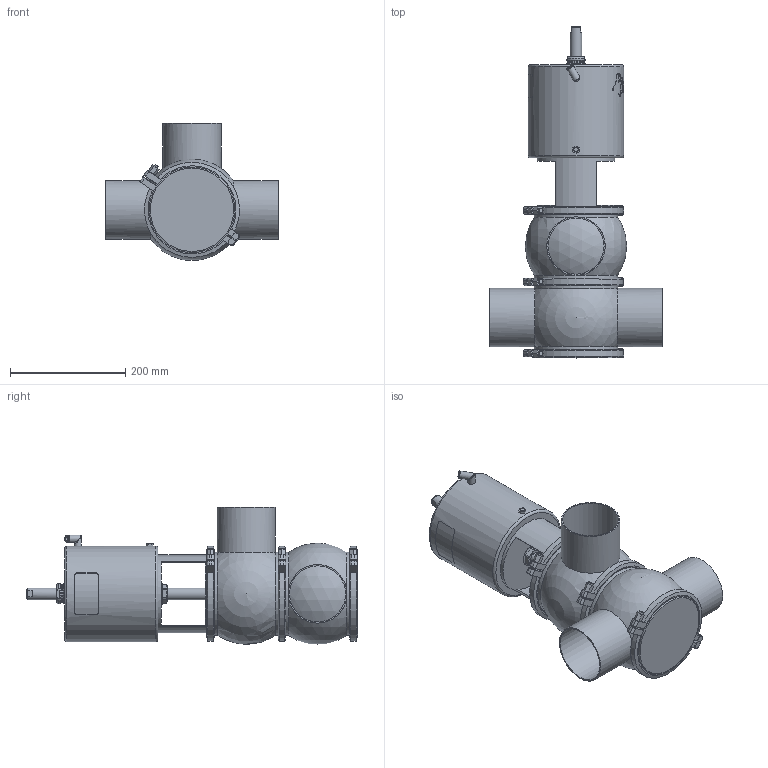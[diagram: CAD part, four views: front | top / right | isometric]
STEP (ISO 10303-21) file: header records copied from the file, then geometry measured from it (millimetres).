
FILE_DESCRIPTION (( 'STEP AP214' ), '1' );
FILE_NAME ('INNOVA M B W OD 4 T4 AS NC_10.241.16.0004.STEP', '2024-08-07T13:08:55', ( '' ), ( '' ), 'SwSTEP 2.0', 'SolidWorks 2023', '' );
FILE_SCHEMA (( 'AUTOMOTIVE_DESIGN' ));
Length unit declared in the file: millimetre
Products named in the file (7): 10.241.15.0001_DIN 100; 10.240.15.0006_OD 4"; 10.240.15.0001_DN 100; 10.240.15.0007_OD 4"; INNOVA M B W OD 4 T4 AS NC_10.241.16.0004; 10.240.15.0014_T4 AS P180; 10.240.15.0010_DN 100
Assembly tree (8 placements, depth 2):
  INNOVA M B W OD 4 T4 AS NC_10.241.16.0004
    10.240.15.0006_OD 4"
    10.240.15.0007_OD 4"
    10.240.15.0010_DN 100
    10.240.15.0014_T4 AS P180
    10.240.15.0001_DN 100  x3
    10.241.15.0001_DIN 100
Bounding box: 300 x 576.5 x 238 mm (x, y, z)
Volume: 9420043.2 mm3; surface area: 720544.9 mm2
Topology: 9 solids, 9 shells, 464 faces, 1238 edges, 807 vertices
Faces by surface type: plane 226, cylinder 112, bspline 80, cone 36, sphere 6, torus 4
Full cylindrical faces by diameter (mm): 6.15 x1, 8 x7, 8.5 x1, 10.5 x1, 12.5 x3, 16 x1, 20 x2, 31 x1, 34.5 x2, 36.5 x1, 97.4 x3, 101.6 x3, 135 x1, 144.5 x5, 156.5 x6, 166 x1
Entity records: 20860 total; most frequent: CARTESIAN_POINT 11384, ORIENTED_EDGE 1646, DIRECTION 1283, EDGE_CURVE 823, VERTEX_POINT 568, AXIS2_PLACEMENT_3D 497, EDGE_LOOP 427, FACE_OUTER_BOUND 385
